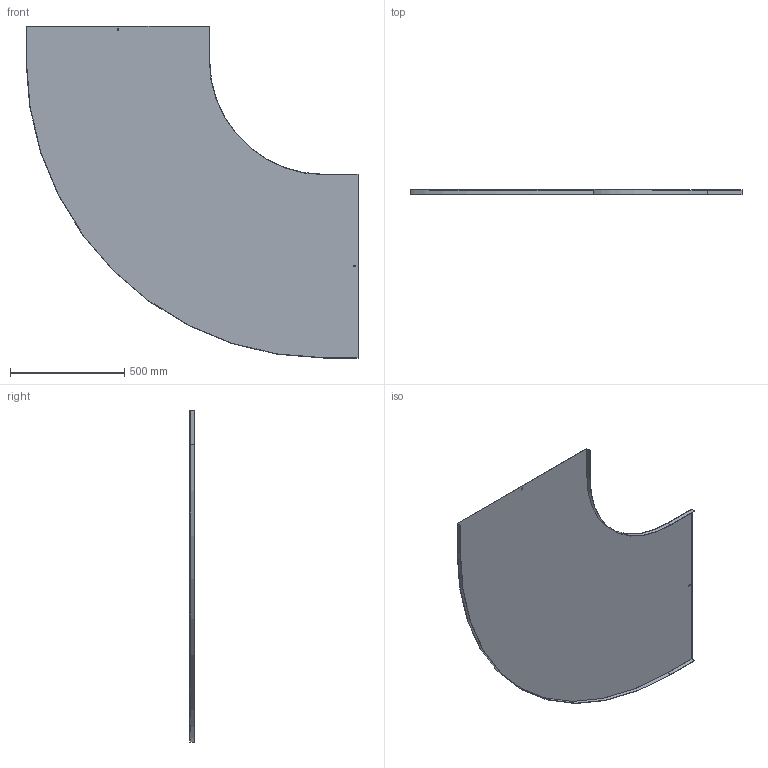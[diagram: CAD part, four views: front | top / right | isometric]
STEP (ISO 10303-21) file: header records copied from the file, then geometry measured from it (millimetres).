
FILE_DESCRIPTION (( 'STEP AP214' ), '1' );
FILE_NAME ('10N5R800.step', '2025-02-21T10:53:33', ( '' ), ( '' ), 'SwSTEP 2.0', 'SolidWorks 2023', '' );
FILE_SCHEMA (( 'AUTOMOTIVE_DESIGN' ));
Length unit declared in the file: millimetre
Products named in the file (1): 10N5R800
Bounding box: 1451.5 x 20 x 1451.5 mm (x, y, z)
Volume: 2159107.5 mm3; surface area: 2886564.2 mm2
Topology: 1 solids, 1 shells, 26 faces, 72 edges, 48 vertices
Faces by surface type: plane 22, cylinder 4
Entity records: 855 total; most frequent: CARTESIAN_POINT 147, ORIENTED_EDGE 144, DIRECTION 134, EDGE_CURVE 72, VECTOR 64, LINE 64, VERTEX_POINT 48, AXIS2_PLACEMENT_3D 35
